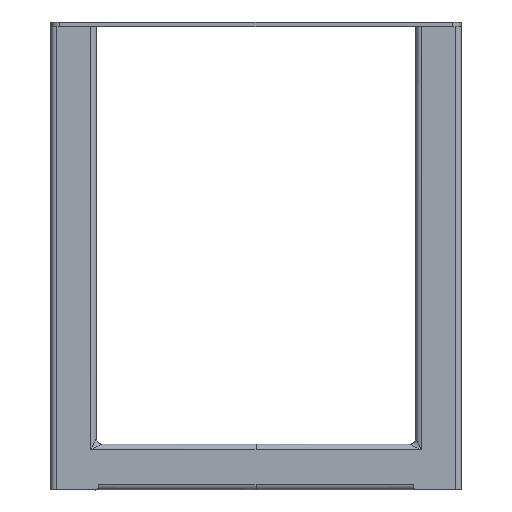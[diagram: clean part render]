
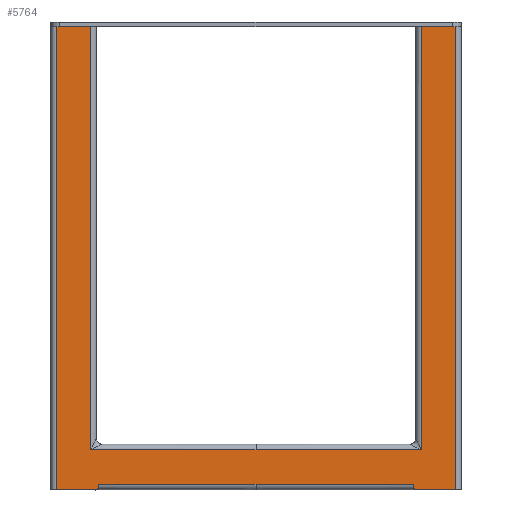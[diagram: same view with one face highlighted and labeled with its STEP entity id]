
A CAD part, top view. The second image highlights one B-rep face of the part: STEP entity #5764.
In plain terms, the highlighted planar face has unit normal (0, 0, 1).
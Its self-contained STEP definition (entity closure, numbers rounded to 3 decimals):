
#156=PLANE('',#6231);
#455=FACE_OUTER_BOUND('',#790,.T.);
#790=EDGE_LOOP('',(#5061,#5062,#5063,#5064,#5065,#5066,#5067,#5068,#5069,
#5070,#5071,#5072,#5073,#5074,#5075,#5076,#5077,#5078));
#929=CIRCLE('',#6226,2.5);
#931=CIRCLE('',#6232,2.5);
#1515=LINE('',#17231,#1924);
#1525=LINE('',#17272,#1934);
#1551=LINE('',#17346,#1960);
#1578=LINE('',#17411,#1987);
#1603=LINE('',#19036,#2012);
#1622=LINE('',#19091,#2031);
#1628=LINE('',#19108,#2037);
#1631=LINE('',#19112,#2040);
#1632=LINE('',#19118,#2041);
#1635=LINE('',#19138,#2044);
#1636=LINE('',#19140,#2045);
#1637=LINE('',#19142,#2046);
#1638=LINE('',#19146,#2047);
#1639=LINE('',#19147,#2048);
#1640=LINE('',#19148,#2049);
#1641=LINE('',#19149,#2050);
#1924=VECTOR('',#7066,10.);
#1934=VECTOR('',#7098,10.);
#1960=VECTOR('',#7160,10.);
#1987=VECTOR('',#7215,10.);
#2012=VECTOR('',#7300,10.);
#2031=VECTOR('',#7357,10.);
#2037=VECTOR('',#7377,10.);
#2040=VECTOR('',#7382,10.);
#2041=VECTOR('',#7387,10.);
#2044=VECTOR('',#7404,10.);
#2045=VECTOR('',#7405,10.);
#2046=VECTOR('',#7406,10.);
#2047=VECTOR('',#7409,10.);
#2048=VECTOR('',#7410,10.);
#2049=VECTOR('',#7411,10.);
#2050=VECTOR('',#7412,10.);
#2503=VERTEX_POINT('',#17227);
#2505=VERTEX_POINT('',#17230);
#2524=VERTEX_POINT('',#17269);
#2525=VERTEX_POINT('',#17271);
#2555=VERTEX_POINT('',#17345);
#2579=VERTEX_POINT('',#17410);
#2592=VERTEX_POINT('',#18922);
#2597=VERTEX_POINT('',#19035);
#2614=VERTEX_POINT('',#19089);
#2617=VERTEX_POINT('',#19105);
#2618=VERTEX_POINT('',#19107);
#2620=VERTEX_POINT('',#19115);
#2621=VERTEX_POINT('',#19117);
#2623=VERTEX_POINT('',#19137);
#2624=VERTEX_POINT('',#19139);
#2625=VERTEX_POINT('',#19141);
#2626=VERTEX_POINT('',#19143);
#2627=VERTEX_POINT('',#19145);
#3267=EDGE_CURVE('',#2505,#2503,#1515,.T.);
#3287=EDGE_CURVE('',#2525,#2524,#1525,.T.);
#3324=EDGE_CURVE('',#2505,#2555,#1551,.T.);
#3357=EDGE_CURVE('',#2525,#2579,#1578,.T.);
#3410=EDGE_CURVE('',#2555,#2597,#1603,.T.);
#3438=EDGE_CURVE('',#2503,#2614,#1622,.T.);
#3446=EDGE_CURVE('',#2618,#2617,#1628,.T.);
#3449=EDGE_CURVE('',#2618,#2614,#1631,.T.);
#3451=EDGE_CURVE('',#2620,#2621,#1632,.T.);
#3454=EDGE_CURVE('',#2621,#2617,#929,.T.);
#3458=EDGE_CURVE('',#2623,#2620,#1635,.T.);
#3459=EDGE_CURVE('',#2624,#2623,#1636,.T.);
#3460=EDGE_CURVE('',#2625,#2624,#1637,.T.);
#3461=EDGE_CURVE('',#2626,#2625,#931,.T.);
#3462=EDGE_CURVE('',#2627,#2626,#1638,.T.);
#3463=EDGE_CURVE('',#2579,#2627,#1639,.T.);
#3464=EDGE_CURVE('',#2524,#2592,#1640,.T.);
#3465=EDGE_CURVE('',#2592,#2597,#1641,.T.);
#5061=ORIENTED_EDGE('',*,*,#3446,.T.);
#5062=ORIENTED_EDGE('',*,*,#3454,.F.);
#5063=ORIENTED_EDGE('',*,*,#3451,.F.);
#5064=ORIENTED_EDGE('',*,*,#3458,.F.);
#5065=ORIENTED_EDGE('',*,*,#3459,.F.);
#5066=ORIENTED_EDGE('',*,*,#3460,.F.);
#5067=ORIENTED_EDGE('',*,*,#3461,.F.);
#5068=ORIENTED_EDGE('',*,*,#3462,.F.);
#5069=ORIENTED_EDGE('',*,*,#3463,.F.);
#5070=ORIENTED_EDGE('',*,*,#3357,.F.);
#5071=ORIENTED_EDGE('',*,*,#3287,.T.);
#5072=ORIENTED_EDGE('',*,*,#3464,.T.);
#5073=ORIENTED_EDGE('',*,*,#3465,.T.);
#5074=ORIENTED_EDGE('',*,*,#3410,.F.);
#5075=ORIENTED_EDGE('',*,*,#3324,.F.);
#5076=ORIENTED_EDGE('',*,*,#3267,.T.);
#5077=ORIENTED_EDGE('',*,*,#3438,.T.);
#5078=ORIENTED_EDGE('',*,*,#3449,.F.);
#5764=ADVANCED_FACE('',(#455),#156,.T.);
#6226=AXIS2_PLACEMENT_3D('',#19129,#7391,#7392);
#6231=AXIS2_PLACEMENT_3D('',#19136,#7402,#7403);
#6232=AXIS2_PLACEMENT_3D('',#19144,#7407,#7408);
#7066=DIRECTION('',(-1.,0.,0.));
#7098=DIRECTION('',(-1.,0.,0.));
#7160=DIRECTION('',(0.,-1.,0.));
#7215=DIRECTION('',(0.,-1.,0.));
#7300=DIRECTION('',(1.,0.,0.));
#7357=DIRECTION('',(0.,-1.,0.));
#7377=DIRECTION('',(1.,0.,0.));
#7382=DIRECTION('',(-1.,0.,0.));
#7387=DIRECTION('',(0.,-1.,0.));
#7391=DIRECTION('center_axis',(0.,0.,-1.));
#7392=DIRECTION('ref_axis',(0.707,-0.707,0.));
#7402=DIRECTION('center_axis',(0.,0.,1.));
#7403=DIRECTION('ref_axis',(-1.,0.,0.));
#7404=DIRECTION('',(-1.,0.,0.));
#7405=DIRECTION('',(-1.,0.,0.));
#7406=DIRECTION('',(0.,1.,0.));
#7407=DIRECTION('center_axis',(0.,0.,-1.));
#7408=DIRECTION('ref_axis',(-0.707,-0.707,0.));
#7409=DIRECTION('',(-1.,0.,0.));
#7410=DIRECTION('',(-1.,0.,0.));
#7411=DIRECTION('',(0.,-1.,0.));
#7412=DIRECTION('',(-1.,0.,0.));
#17227=CARTESIAN_POINT('',(-175.,-58.,40.));
#17230=CARTESIAN_POINT('',(-145.,-58.,40.));
#17231=CARTESIAN_POINT('',(-152.5,-58.,40.));
#17269=CARTESIAN_POINT('',(145.,-58.,40.));
#17271=CARTESIAN_POINT('',(175.,-58.,40.));
#17272=CARTESIAN_POINT('',(7.5,-58.,40.));
#17345=CARTESIAN_POINT('',(-145.,-429.,40.));
#17346=CARTESIAN_POINT('',(-145.,-4.,40.));
#17410=CARTESIAN_POINT('',(175.,-464.,40.));
#17411=CARTESIAN_POINT('',(175.,-4.,40.));
#18922=CARTESIAN_POINT('',(145.,-429.,40.));
#19035=CARTESIAN_POINT('',(0.,-429.,40.));
#19036=CARTESIAN_POINT('',(-140.,-429.,40.));
#19089=CARTESIAN_POINT('',(-175.,-464.,40.));
#19091=CARTESIAN_POINT('',(-175.,-4.,40.));
#19105=CARTESIAN_POINT('',(-140.5,-464.,40.));
#19107=CARTESIAN_POINT('',(-145.,-464.,40.));
#19108=CARTESIAN_POINT('',(-140.,-464.,40.));
#19112=CARTESIAN_POINT('',(-175.,-464.,40.));
#19115=CARTESIAN_POINT('',(-138.,-459.,40.));
#19117=CARTESIAN_POINT('',(-138.,-461.5,40.));
#19118=CARTESIAN_POINT('',(-138.,-439.,40.));
#19129=CARTESIAN_POINT('Origin',(-140.5,-461.5,40.));
#19136=CARTESIAN_POINT('Origin',(-145.,-4.,40.));
#19137=CARTESIAN_POINT('',(0.,-459.,40.));
#19138=CARTESIAN_POINT('',(-140.,-459.,40.));
#19139=CARTESIAN_POINT('',(138.,-459.,40.));
#19140=CARTESIAN_POINT('',(140.,-459.,40.));
#19141=CARTESIAN_POINT('',(138.,-461.5,40.));
#19142=CARTESIAN_POINT('',(138.,-439.,40.));
#19143=CARTESIAN_POINT('',(140.5,-464.,40.));
#19144=CARTESIAN_POINT('Origin',(140.5,-461.5,40.));
#19145=CARTESIAN_POINT('',(145.,-464.,40.));
#19146=CARTESIAN_POINT('',(140.,-464.,40.));
#19147=CARTESIAN_POINT('',(145.,-464.,40.));
#19148=CARTESIAN_POINT('',(145.,-4.,40.));
#19149=CARTESIAN_POINT('',(140.,-429.,40.));
